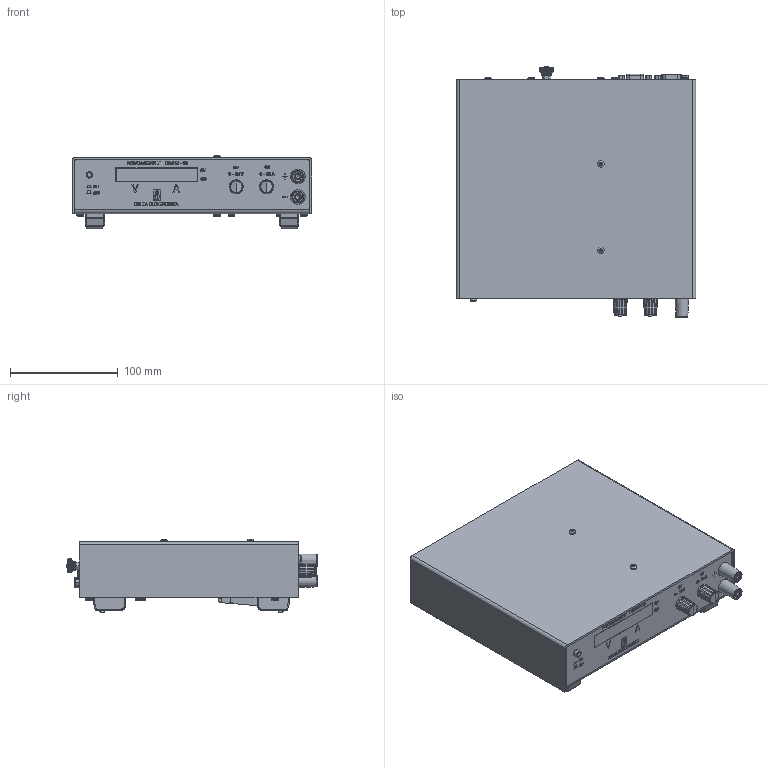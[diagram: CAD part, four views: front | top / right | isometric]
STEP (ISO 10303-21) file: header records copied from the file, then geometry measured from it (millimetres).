
FILE_DESCRIPTION(/* description */ (''),/* implementation_level */ '2;1');
FILE_NAME(/* name */ 'A:\Data\ES150\option\P148\step files\ES150-P148.stp',/* time_stamp */ '2021-03-15T13:52:24+01:00',/* author */ ('Delta'),/* organization */ (''),/* preprocessor_version */ 'ST-DEVELOPER v17.2',/* originating_system */ 'Autodesk Inventor 2019',/* authorisation */ '');
FILE_SCHEMA (('AUTOMOTIVE_DESIGN { 1 0 10303 214 3 1 1 }'));
Products named in the file (1): assembly ES150-P148_Shrinkwrap_2
Bounding box: 222 x 232 x 68.2 mm (x, y, z)
Volume: 2319205.7 mm3; surface area: 169564.5 mm2
Topology: 1 solids, 1 shells, 3555 faces, 8476 edges, 5432 vertices
Faces by surface type: plane 1933, cylinder 775, bspline 402, cone 275, torus 102, sphere 68
Full cylindrical faces by diameter (mm): 0.9 x9, 1.1 x9, 2.156 x4, 2.7 x2, 2.76 x2, 3 x2, 3.2 x2, 3.5 x362, 4 x2, 4.2 x2, 4.3 x2, 4.5 x2, 4.75 x4, 5 x1, 5.8 x1, 6 x36, 6.2 x2, 6.5 x2, 7.8 x2, 8 x6, 8.3 x2, 8.8 x2, 9 x6, 9.3 x2, 10 x2, 10.5 x1, 10.7 x2, 13.5 x6
Entity records: 112263 total; most frequent: CARTESIAN_POINT 28787, ORIENTED_EDGE 16906, DIRECTION 15980, EDGE_CURVE 8453, AXIS2_PLACEMENT_3D 5794, VERTEX_POINT 5434, LINE 4392, VECTOR 4392
